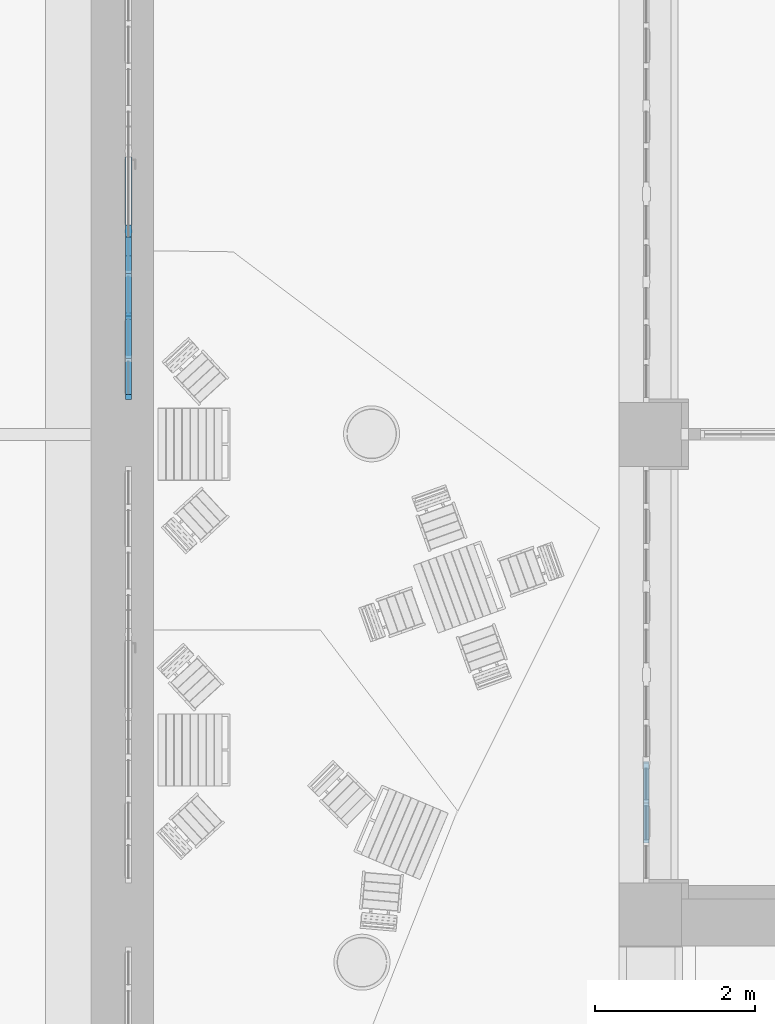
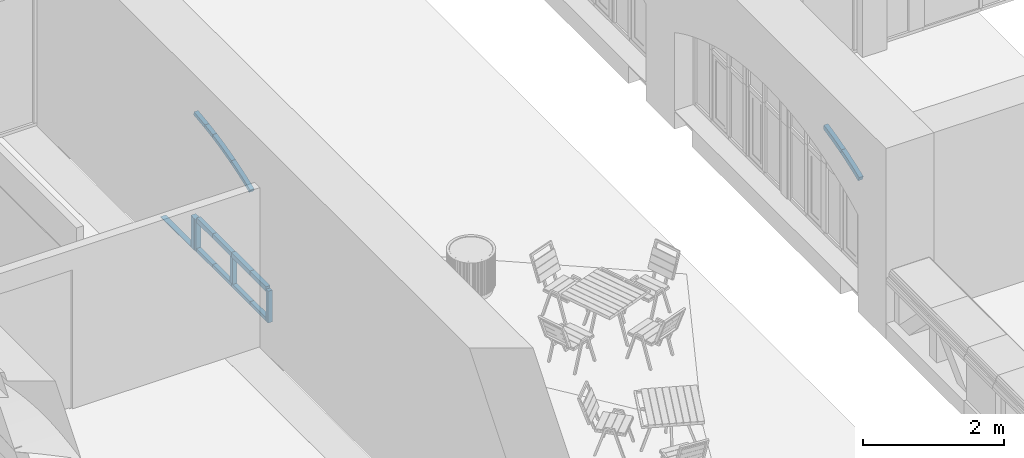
# One storey, part 21 of 88: 18 members, 2 elements without a shape of their own.
"""IFC2X3 building model written with IfcOpenShell, lengths in millimetres."""

from ifc_helpers import new_model, entity, si_unit, converted_unit, derived_unit, direction, frame, frame_2d, origin, place, context, subcontext, project, spatial, polyline, circle_curve, parameter, trimmed, segment, composite_curve, rectangle, outline, extrude, source, transform, mapped, material, type_object, type_shapes, element, aggregate, save


model = new_model("IFC2X3")

# Units and contexts
model_context = context("Model", 3, precision=0.01, world=origin(), true_north=direction((6.123031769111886e-17, 1.0)))
body_context = subcontext(model_context, "Body", "Model", "MODEL_VIEW")
ifc_project = project(units=[si_unit("LENGTHUNIT", "METRE", prefix="MILLI"), si_unit("AREAUNIT", "SQUARE_METRE"), si_unit("VOLUMEUNIT", "CUBIC_METRE"), converted_unit("PLANEANGLEUNIT", "DEGREE", entity("IfcPlaneAngleMeasure", 0.017453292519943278), si_unit("PLANEANGLEUNIT", "RADIAN"), dimensions=[0, 0, 0, 0, 0, 0, 0]), si_unit("MASSUNIT", "GRAM", prefix="KILO"), derived_unit("MASSDENSITYUNIT", [(si_unit("MASSUNIT", "GRAM", prefix="KILO"), 1), (si_unit("LENGTHUNIT", "METRE"), -3)]), derived_unit("IONCONCENTRATIONUNIT", [(si_unit("MASSUNIT", "GRAM", prefix="KILO"), 1), (si_unit("LENGTHUNIT", "METRE"), -3)]), derived_unit("MOMENTOFINERTIAUNIT", [(si_unit("LENGTHUNIT", "METRE"), 4)]), si_unit("TIMEUNIT", "SECOND"), si_unit("FREQUENCYUNIT", "HERTZ"), si_unit("THERMODYNAMICTEMPERATUREUNIT", "DEGREE_CELSIUS"), derived_unit("THERMALTRANSMITTANCEUNIT", [(si_unit("MASSUNIT", "GRAM", prefix="KILO"), 1), (si_unit("THERMODYNAMICTEMPERATUREUNIT", "KELVIN"), -1), (si_unit("TIMEUNIT", "SECOND"), -3)]), derived_unit("THERMALCONDUCTANCEUNIT", [(si_unit("MASSUNIT", "GRAM", prefix="KILO"), 1), (si_unit("THERMODYNAMICTEMPERATUREUNIT", "KELVIN"), -1), (si_unit("TIMEUNIT", "SECOND"), -3), (si_unit("LENGTHUNIT", "METRE"), 1)]), derived_unit("VOLUMETRICFLOWRATEUNIT", [(si_unit("LENGTHUNIT", "METRE", prefix="DECI"), 3), (si_unit("TIMEUNIT", "SECOND"), -1)]), derived_unit("MASSFLOWRATEUNIT", [(si_unit("MASSUNIT", "GRAM", prefix="KILO"), 1), (si_unit("TIMEUNIT", "SECOND"), -1)]), derived_unit("ROTATIONALFREQUENCYUNIT", [(si_unit("TIMEUNIT", "SECOND"), -1)]), si_unit("ELECTRICCURRENTUNIT", "AMPERE"), si_unit("ELECTRICVOLTAGEUNIT", "VOLT"), si_unit("POWERUNIT", "WATT"), si_unit("FORCEUNIT", "NEWTON", prefix="KILO"), si_unit("ILLUMINANCEUNIT", "LUX"), si_unit("LUMINOUSFLUXUNIT", "LUMEN"), si_unit("LUMINOUSINTENSITYUNIT", "CANDELA"), si_unit("ENERGYUNIT", "JOULE"), derived_unit("USERDEFINED", [(si_unit("MASSUNIT", "GRAM", prefix="KILO"), -1), (si_unit("LENGTHUNIT", "METRE"), -2), (si_unit("TIMEUNIT", "SECOND"), 3), (si_unit("LUMINOUSFLUXUNIT", "LUMEN"), 1)]), derived_unit("USERDEFINED", [(si_unit("MASSUNIT", "GRAM", prefix="KILO"), 1), (si_unit("TIMEUNIT", "SECOND"), -3), (si_unit("LENGTHUNIT", "METRE"), 3), (si_unit("ELECTRICCURRENTUNIT", "AMPERE"), -2)]), derived_unit("SOUNDPOWERUNIT", [(si_unit("MASSUNIT", "GRAM", prefix="KILO"), 1), (si_unit("TIMEUNIT", "SECOND"), -3), (si_unit("LENGTHUNIT", "METRE"), 2)]), derived_unit("SOUNDPRESSUREUNIT", [(si_unit("MASSUNIT", "GRAM", prefix="KILO"), 1), (si_unit("LENGTHUNIT", "METRE"), -1), (si_unit("TIMEUNIT", "SECOND"), -2)]), derived_unit("LINEARVELOCITYUNIT", [(si_unit("LENGTHUNIT", "METRE"), 1), (si_unit("TIMEUNIT", "SECOND"), -1)]), si_unit("PRESSUREUNIT", "PASCAL"), derived_unit("USERDEFINED", [(si_unit("MASSUNIT", "GRAM", prefix="KILO"), 1), (si_unit("LENGTHUNIT", "METRE"), -2), (si_unit("TIMEUNIT", "SECOND"), -2)]), derived_unit("LINEARFORCEUNIT", [(si_unit("MASSUNIT", "GRAM", prefix="KILO"), 1), (si_unit("TIMEUNIT", "SECOND"), -2)]), derived_unit("PLANARFORCEUNIT", [(si_unit("MASSUNIT", "GRAM", prefix="KILO"), 1), (si_unit("LENGTHUNIT", "METRE"), -1), (si_unit("TIMEUNIT", "SECOND"), -2)]), derived_unit("SPECIFICHEATCAPACITYUNIT", [(si_unit("THERMODYNAMICTEMPERATUREUNIT", "KELVIN"), -1), (si_unit("LENGTHUNIT", "METRE"), 2), (si_unit("TIMEUNIT", "SECOND"), -2)]), derived_unit("HEATFLUXDENSITYUNIT", [(si_unit("MASSUNIT", "GRAM", prefix="KILO"), 1), (si_unit("TIMEUNIT", "SECOND"), -3)]), derived_unit("HEATINGVALUEUNIT", [(si_unit("LENGTHUNIT", "METRE"), 2), (si_unit("TIMEUNIT", "SECOND"), -2)]), derived_unit("VAPORPERMEABILITYUNIT", [(si_unit("LENGTHUNIT", "METRE"), -1), (si_unit("TIMEUNIT", "SECOND"), 1)]), derived_unit("DYNAMICVISCOSITYUNIT", [(si_unit("MASSUNIT", "GRAM", prefix="KILO"), 1), (si_unit("TIMEUNIT", "SECOND"), -1), (si_unit("LENGTHUNIT", "METRE"), -1)]), derived_unit("THERMALEXPANSIONCOEFFICIENTUNIT", [(si_unit("THERMODYNAMICTEMPERATUREUNIT", "KELVIN"), -1)]), derived_unit("MODULUSOFELASTICITYUNIT", [(si_unit("MASSUNIT", "GRAM", prefix="KILO"), 1), (si_unit("LENGTHUNIT", "METRE"), -1), (si_unit("TIMEUNIT", "SECOND"), -2)]), derived_unit("ISOTHERMALMOISTURECAPACITYUNIT", [(si_unit("MASSUNIT", "GRAM", prefix="KILO"), -1), (si_unit("LENGTHUNIT", "METRE"), 3)]), derived_unit("MOISTUREDIFFUSIVITYUNIT", [(si_unit("TIMEUNIT", "SECOND"), -1), (si_unit("LENGTHUNIT", "METRE"), 2)]), derived_unit("MASSPERLENGTHUNIT", [(si_unit("MASSUNIT", "GRAM", prefix="KILO"), 1), (si_unit("LENGTHUNIT", "METRE"), -1)]), derived_unit("THERMALRESISTANCEUNIT", [(si_unit("MASSUNIT", "GRAM", prefix="KILO"), -1), (si_unit("TIMEUNIT", "SECOND"), 3), (si_unit("THERMODYNAMICTEMPERATUREUNIT", "KELVIN"), 1)]), derived_unit("ACCELERATIONUNIT", [(si_unit("LENGTHUNIT", "METRE"), 1), (si_unit("TIMEUNIT", "SECOND"), -2)]), derived_unit("ANGULARVELOCITYUNIT", [(si_unit("TIMEUNIT", "SECOND"), -1), (si_unit("PLANEANGLEUNIT", "RADIAN"), 1)]), derived_unit("LINEARSTIFFNESSUNIT", [(si_unit("MASSUNIT", "GRAM", prefix="KILO"), 1), (si_unit("TIMEUNIT", "SECOND"), -2)]), derived_unit("WARPINGCONSTANTUNIT", [(si_unit("LENGTHUNIT", "METRE"), 6)]), derived_unit("LINEARMOMENTUNIT", [(si_unit("MASSUNIT", "GRAM", prefix="KILO"), 1), (si_unit("LENGTHUNIT", "METRE"), 1), (si_unit("TIMEUNIT", "SECOND"), -2)]), derived_unit("TORQUEUNIT", [(si_unit("MASSUNIT", "GRAM", prefix="KILO"), 1), (si_unit("LENGTHUNIT", "METRE"), 2), (si_unit("TIMEUNIT", "SECOND"), -2)])], contexts=[model_context])

# Site, building, storey
site_placement = place(None, origin())
site = spatial("IfcSite", under=ifc_project, at=site_placement, Name="Default", CompositionType="ELEMENT")
building_placement = place(site_placement, origin())
building = spatial("IfcBuilding", under=site, at=building_placement, Name="Eesti Rahvusraamatukogu hoone renoveerimise projekteerimistööd", CompositionType="ELEMENT")
storey_placement = place(building_placement, origin())
storey = spatial("IfcBuildingStorey", under=building, at=storey_placement, Name="1. korrus", CompositionType="ELEMENT", Elevation=0.0)

# Curtain wall, members
curtain_wall_type_1 = type_object("IfcCurtainWallType", Name="Curtain Wall:Ak-02", PredefinedType="NOTDEFINED")
curtain_wall_1_placement = place(storey_placement, origin())
curtain_wall_1 = element("IfcCurtainWall", 1, at=curtain_wall_1_placement, inside=storey, type_object=curtain_wall_type_1, Name="Curtain Wall:Ak-02", ObjectType="Curtain Wall:Ak-02")
ifc_material_1 = material(Name="LUMION_dark steel window frames")
member_type_1 = type_object("IfcMemberType", Name="Rectangular Mullion:NEW 80x70mm", PredefinedType="MULLION", material=ifc_material_1)
shared_shape_1 = source(origin(), body_context, "Body", "SweptSolid", [
    extrude(outline(composite_curve([segment(polyline([(-51.95542765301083, -255.69780513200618), (28.044572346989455, -255.69780513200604)]), True, "CONTINUOUS"), segment(trimmed(circle_curve(frame_2d((5468.760252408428, -255.6978051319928), x_axis=(-0.9956372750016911, 0.09330818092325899)), 5440.715680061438), [parameter(3.5622212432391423e-13)], [parameter(5.353953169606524)], True, "PARAMETER"), False, "CONTINUOUS"), segment(polyline([(51.78091865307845, 251.96547789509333), (-27.870063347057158, 259.4301323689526)]), True, "CONTINUOUS"), segment(trimmed(circle_curve(frame_2d((5468.760252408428, -255.6978051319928), x_axis=(-0.9956372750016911, 0.09330818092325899)), 5520.715680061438), [parameter(3.5622212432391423e-13)], [parameter(5.353953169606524)], True, "PARAMETER"), True, "CONTINUOUS")], self_intersect=False)), frame((-51.9554276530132, -35.0, -255.6978051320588), z_axis=(0.0, 1.0, 0.0), x_axis=(-0.9956372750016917, 0.0, 0.09330818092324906)), (0.0, 0.0, 1.0), 70.00000000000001),
])
type_shapes(member_type_1, [shared_shape_1])
member_1_placement = place(curtain_wall_1_placement, frame((-36440.0, 7790.0, 3733.6333100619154), z_axis=(0.0, -0.9570819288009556, -0.28981749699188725), x_axis=(0.0, -0.28981749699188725, 0.9570819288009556)))
member_1 = element("IfcMember", 2, at=member_1_placement, type_object=member_type_1, material=ifc_material_1, Name="Rectangular Mullion:NEW 80x70mm", ObjectType="Rectangular Mullion:NEW 80x70mm", context=body_context, shape_type="MappedRepresentation", body=[
    mapped(shared_shape_1, transform((0.0, 0.0, 0.0), scale=1.0)),
])
member_type_2 = type_object("IfcMemberType", Name="Rectangular Mullion:NEW 80x70mm", PredefinedType="MULLION", material=ifc_material_1)
shared_shape_2 = source(origin(), body_context, "Body", "SweptSolid", [
    extrude(outline(composite_curve([segment(polyline([(-52.66438607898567, -263.1530214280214), (27.33561392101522, -263.1530214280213)]), True, "CONTINUOUS"), segment(trimmed(circle_curve(frame_2d((5468.05129398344, -263.15302142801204), x_axis=(-0.9953785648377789, 0.09602870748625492)), 5440.715680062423), [parameter(3.5622212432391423e-13)], [parameter(5.510531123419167)], True, "PARAMETER"), False, "CONTINUOUS"), segment(polyline([(52.47952867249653, 259.31187312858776), (-27.150756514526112, 266.99416972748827)]), True, "CONTINUOUS"), segment(trimmed(circle_curve(frame_2d((5468.05129398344, -263.15302142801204), x_axis=(-0.9953785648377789, 0.09602870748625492)), 5520.715680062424), [parameter(3.5622212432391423e-13)], [parameter(5.510531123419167)], True, "PARAMETER"), True, "CONTINUOUS")], self_intersect=False)), frame((-52.66438607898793, -35.0, -263.1530214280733), z_axis=(0.0, 1.0, 0.0), x_axis=(-0.9953785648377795, 0.0, 0.09602870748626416)), (0.0, 0.0, 1.0), 70.0),
])
type_shapes(member_type_2, [shared_shape_2])
member_2_placement = place(curtain_wall_1_placement, frame((-36440.0, 7290.0, 3555.56874428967), z_axis=(0.0, -0.9248280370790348, -0.3803854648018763), x_axis=(0.0, -0.3803854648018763, 0.9248280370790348)))
member_2 = element("IfcMember", 3, at=member_2_placement, type_object=member_type_2, material=ifc_material_1, Name="Rectangular Mullion:NEW 80x70mm", ObjectType="Rectangular Mullion:NEW 80x70mm", context=body_context, shape_type="MappedRepresentation", body=[
    mapped(shared_shape_2, transform((0.0, 0.0, 0.0), scale=1.0)),
])
aggregate(curtain_wall_1, [member_1, member_2])

curtain_wall_type_2 = type_object("IfcCurtainWallType", Name="Curtain Wall:Ak-05", PredefinedType="NOTDEFINED")
curtain_wall_2_placement = place(storey_placement, origin())
curtain_wall_2 = element("IfcCurtainWall", 4, at=curtain_wall_2_placement, inside=storey, type_object=curtain_wall_type_2, Name="Curtain Wall:Ak-05", ObjectType="Curtain Wall:Ak-05")
member_type_3 = type_object("IfcMemberType", Name="Rectangular Mullion:NEW 60x70mm", PredefinedType="MULLION", material=ifc_material_1)
shared_shape_3 = source(origin(), body_context, "Body", "SweptSolid", [
    extrude(outline(composite_curve([segment(polyline([(-44.19959331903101, -278.92780712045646), (15.800406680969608, -278.9278071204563)]), True, "CONTINUOUS"), segment(trimmed(circle_curve(frame_2d((5479.080973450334, -278.9278071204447), x_axis=(-0.9948301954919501, 0.10155236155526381)), 5463.280566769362), [parameter(3.5622212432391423e-13)], [parameter(5.828569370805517)], True, "PARAMETER"), False, "CONTINUOUS"), segment(polyline([(44.04449918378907, 275.8812362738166), (-15.645312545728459, 281.97437796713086)]), True, "CONTINUOUS"), segment(trimmed(circle_curve(frame_2d((5479.080973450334, -278.9278071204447), x_axis=(-0.9948301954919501, 0.10155236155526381)), 5523.280566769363), [parameter(3.5622212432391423e-13)], [parameter(5.828569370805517)], True, "PARAMETER"), True, "CONTINUOUS")], self_intersect=False)), frame((-44.19959331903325, -35.0, -278.9278071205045), z_axis=(0.0, 1.0, 0.0), x_axis=(-0.9948301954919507, 0.0, 0.10155236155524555)), (0.0, 0.0, 1.0), 69.99999999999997),
])
type_shapes(member_type_3, [shared_shape_3])
member_3_placement = place(curtain_wall_2_placement, frame((-42905.0, 13335.0, 1939.3047106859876), z_axis=(0.0, -0.9256428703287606, -0.37839830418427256), x_axis=(0.0, -0.37839830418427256, 0.9256428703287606)))
member_3 = element("IfcMember", 5, at=member_3_placement, type_object=member_type_3, material=ifc_material_1, Name="Rectangular Mullion:NEW 60x70mm", ObjectType="Rectangular Mullion:NEW 60x70mm", context=body_context, shape_type="MappedRepresentation", body=[
    mapped(shared_shape_3, transform((0.0, 0.0, 0.0), scale=1.0)),
])
member_type_4 = type_object("IfcMemberType", Name="Rectangular Mullion:NEW 60x70mm", PredefinedType="MULLION", material=ifc_material_1)
shared_shape_4 = source(origin(), body_context, "Body", "SweptSolid", [
    extrude(outline(composite_curve([segment(polyline([(-43.38278695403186, -270.80676601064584), (16.61721304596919, -270.80676601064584)]), True, "CONTINUOUS"), segment(trimmed(circle_curve(frame_2d((5479.897779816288, -270.80676601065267), x_axis=(-0.9951275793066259, 0.09859564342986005)), 5463.280566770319), [parameter(3.5622212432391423e-13)], [parameter(5.658307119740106)], True, "PARAMETER"), False, "CONTINUOUS"), segment(polyline([(43.23661433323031, 267.8488967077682), (-16.471040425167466, 273.7646353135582)]), True, "CONTINUOUS"), segment(trimmed(circle_curve(frame_2d((5479.897779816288, -270.80676601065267), x_axis=(-0.9951275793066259, 0.09859564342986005)), 5523.280566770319), [parameter(3.5622212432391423e-13)], [parameter(5.658307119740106)], True, "PARAMETER"), True, "CONTINUOUS")], self_intersect=False)), frame((-43.382786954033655, -35.0, -270.8067660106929), z_axis=(0.0, 1.0, 0.0), x_axis=(-0.9951275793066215, 0.0, 0.09859564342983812)), (0.0, 0.0, 1.0), 69.99999999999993),
])
type_shapes(member_type_4, [shared_shape_4])
member_4_placement = place(curtain_wall_2_placement, frame((-42905.0, 13865.0, 2125.1180799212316), z_axis=(0.0, -0.959284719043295, -0.28244083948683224), x_axis=(0.0, -0.28244083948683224, 0.959284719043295)))
member_4 = element("IfcMember", 6, at=member_4_placement, type_object=member_type_4, material=ifc_material_1, Name="Rectangular Mullion:NEW 60x70mm", ObjectType="Rectangular Mullion:NEW 60x70mm", context=body_context, shape_type="MappedRepresentation", body=[
    mapped(shared_shape_4, transform((0.0, 0.0, 0.0), scale=1.0)),
])
member_type_5 = type_object("IfcMemberType", Name="Rectangular Mullion:NEW 60x70mm", PredefinedType="MULLION", material=ifc_material_1)
shared_shape_5 = source(origin(), body_context, "Body", "SweptSolid", [
    extrude(outline(composite_curve([segment(polyline([(-32.20246871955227, -109.97239538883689), (27.79753128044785, -109.97239538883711)]), True, "CONTINUOUS"), segment(trimmed(circle_curve(frame_2d((5491.078098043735, -109.97239538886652), x_axis=(-0.9991981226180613, 0.040038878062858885)), 5463.280566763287), [parameter(3.5622212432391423e-13)], [parameter(2.2946721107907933)], True, "PARAMETER"), False, "CONTINUOUS"), segment(polyline([(32.17841239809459, 108.77122904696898), (-27.7734749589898, 111.17356173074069)]), True, "CONTINUOUS"), segment(trimmed(circle_curve(frame_2d((5491.078098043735, -109.97239538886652), x_axis=(-0.9991981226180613, 0.040038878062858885)), 5523.280566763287), [parameter(3.5622212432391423e-13)], [parameter(2.2946721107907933)], True, "PARAMETER"), True, "CONTINUOUS")], self_intersect=False)), frame((-32.202468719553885, -35.0, -109.9723953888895), z_axis=(0.0, 1.0, 0.0), x_axis=(-0.9991981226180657, 0.0, 0.04003887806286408)), (0.0, 0.0, 1.0), 69.99999999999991),
])
type_shapes(member_type_5, [shared_shape_5])
member_5_placement = place(curtain_wall_2_placement, frame((-42905.0, 14395.0, 2253.1112564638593), z_axis=(0.0, -0.9824581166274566, -0.1864833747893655), x_axis=(0.0, -0.1864833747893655, 0.9824581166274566)))
member_5 = element("IfcMember", 7, at=member_5_placement, type_object=member_type_5, material=ifc_material_1, Name="Rectangular Mullion:NEW 60x70mm", ObjectType="Rectangular Mullion:NEW 60x70mm", context=body_context, shape_type="MappedRepresentation", body=[
    mapped(shared_shape_5, transform((0.0, 0.0, 0.0), scale=1.0)),
])
member_type_6 = type_object("IfcMemberType", Name="Rectangular Mullion:NEW 150x90mm", PredefinedType="MULLION", material=ifc_material_1)
shared_shape_6 = source(origin(), body_context, "Body", "SweptSolid", [
    extrude(outline(polyline([(40.0, -20.0), (45.0, -20.0), (45.0, 20.0), (40.0, 20.0), (40.0, 75.0), (-40.0, 75.0), (-40.0, 20.0), (-45.0, 20.0), (-45.0, -20.0), (-40.0, -20.0), (-40.0, -75.0), (40.0, -75.0), (40.0, -20.0)])), frame((0.0, 0.0, -550.0), z_axis=(0.0, 0.0, 1.0), x_axis=(0.0, -1.0, 0.0)), (0.0, 0.0, 1.0), 550.0000000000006),
])
type_shapes(member_type_6, [shared_shape_6])
member_6_placement = place(curtain_wall_2_placement, frame((-42905.0, 14925.0, -50.0), z_axis=(0.0, 0.0, -1.0), x_axis=(0.0, -1.0, 0.0)))
member_6 = element("IfcMember", 8, at=member_6_placement, type_object=member_type_6, material=ifc_material_1, Name="Rectangular Mullion:NEW 150x90mm", ObjectType="Rectangular Mullion:NEW 150x90mm", context=body_context, shape_type="MappedRepresentation", body=[
    mapped(shared_shape_6, transform((0.0, 0.0, 0.0), scale=1.0)),
])
member_type_7 = type_object("IfcMemberType", Name="Rectangular Mullion:NEW 80x70mm", PredefinedType="MULLION", material=ifc_material_1)
shared_shape_7 = source(origin(), body_context, "Body", "SweptSolid", [
    extrude(rectangle(XDim=80.0, YDim=70.0, at=frame_2d((0.0, -3.552713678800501e-15), x_axis=(1.0, 0.0))), frame((0.0, 0.0, -450.0), z_axis=(0.0, 0.0, 1.0), x_axis=(-1.0, 0.0, 0.0)), (0.0, 0.0, 1.0), 449.9999999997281),
])
type_shapes(member_type_7, [shared_shape_7])
member_7_placement = place(curtain_wall_2_placement, frame((-42905.0, 12885.0, 500.0), z_axis=(0.0, -1.0, 0.0), x_axis=(0.0, 0.0, 1.0)))
member_7 = element("IfcMember", 9, at=member_7_placement, type_object=member_type_7, material=ifc_material_1, Name="Rectangular Mullion:NEW 80x70mm", ObjectType="Rectangular Mullion:NEW 80x70mm", context=body_context, shape_type="MappedRepresentation", body=[
    mapped(shared_shape_7, transform((0.0, 0.0, 0.0), scale=1.0)),
])
member_type_8 = type_object("IfcMemberType", Name="Rectangular Mullion:NEW 80x70mm", PredefinedType="MULLION", material=ifc_material_1)
shared_shape_8 = source(origin(), body_context, "Body", "SweptSolid", [
    extrude(rectangle(XDim=80.0, YDim=70.0, at=frame_2d((0.0, -3.552713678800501e-15), x_axis=(1.0, 0.0))), frame((0.0, 0.0, -530.0), z_axis=(0.0, 0.0, 1.0), x_axis=(-1.0, 0.0, 0.0)), (0.0, 0.0, 1.0), 530.0000000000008),
])
type_shapes(member_type_8, [shared_shape_8])
member_8_placement = place(curtain_wall_2_placement, frame((-42905.0, 13335.0, 500.0), z_axis=(0.0, -1.0, 0.0), x_axis=(0.0, 0.0, 1.0)))
member_8 = element("IfcMember", 10, at=member_8_placement, type_object=member_type_8, material=ifc_material_1, Name="Rectangular Mullion:NEW 80x70mm", ObjectType="Rectangular Mullion:NEW 80x70mm", context=body_context, shape_type="MappedRepresentation", body=[
    mapped(shared_shape_8, transform((0.0, 0.0, 0.0), scale=1.0)),
])
member_9_placement = place(curtain_wall_2_placement, frame((-42905.0, 13865.0, 500.0), z_axis=(0.0, -1.0, 0.0), x_axis=(0.0, 0.0, 1.0)))
member_9 = element("IfcMember", 11, at=member_9_placement, type_object=member_type_8, material=ifc_material_1, Name="Rectangular Mullion:NEW 80x70mm", ObjectType="Rectangular Mullion:NEW 80x70mm", context=body_context, shape_type="MappedRepresentation", body=[
    mapped(shared_shape_8, transform((0.0, 0.0, 0.0), scale=1.0)),
])
member_type_9 = type_object("IfcMemberType", Name="Rectangular Mullion:NEW 80x70mm", PredefinedType="MULLION", material=ifc_material_1)
shared_shape_9 = source(origin(), body_context, "Body", "SweptSolid", [
    extrude(rectangle(XDim=80.0, YDim=70.0, at=frame_2d((0.0, -3.552713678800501e-15), x_axis=(1.0, 0.0))), frame((0.0, 0.0, -455.0), z_axis=(0.0, 0.0, 1.0), x_axis=(-1.0, 0.0, 0.0)), (0.0, 0.0, 1.0), 455.0000000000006),
])
type_shapes(member_type_9, [shared_shape_9])
member_10_placement = place(curtain_wall_2_placement, frame((-42905.0, 14395.0, 500.0), z_axis=(0.0, -1.0, 0.0), x_axis=(0.0, 0.0, 1.0)))
member_10 = element("IfcMember", 12, at=member_10_placement, type_object=member_type_9, material=ifc_material_1, Name="Rectangular Mullion:NEW 80x70mm", ObjectType="Rectangular Mullion:NEW 80x70mm", context=body_context, shape_type="MappedRepresentation", body=[
    mapped(shared_shape_9, transform((0.0, 0.0, 0.0), scale=1.0)),
])
member_type_10 = type_object("IfcMemberType", Name="Rectangular Mullion:NEW 80x70mm", PredefinedType="MULLION", material=ifc_material_1)
shared_shape_10 = source(origin(), body_context, "Body", "SweptSolid", [
    extrude(rectangle(XDim=80.0, YDim=70.0, at=frame_2d((0.0, 3.552713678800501e-15), x_axis=(1.0, 0.0))), frame((0.0, 0.0, -450.0), z_axis=(0.0, 0.0, 1.0), x_axis=(-1.0, 0.0, 0.0)), (0.0, 0.0, 1.0), 450.00000000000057),
])
type_shapes(member_type_10, [shared_shape_10])
member_11_placement = place(curtain_wall_2_placement, frame((-42905.0, 13865.0, 10.0), z_axis=(0.0, 0.0, -1.0), x_axis=(0.0, -1.0, 0.0)))
member_11 = element("IfcMember", 13, at=member_11_placement, type_object=member_type_10, material=ifc_material_1, Name="Rectangular Mullion:NEW 80x70mm", ObjectType="Rectangular Mullion:NEW 80x70mm", context=body_context, shape_type="MappedRepresentation", body=[
    mapped(shared_shape_10, transform((0.0, 0.0, 0.0), scale=1.0)),
])
member_type_11 = type_object("IfcMemberType", Name="Rectangular Mullion:NEW 60x70mm", PredefinedType="MULLION", material=ifc_material_1)
shared_shape_11 = source(origin(), body_context, "Body", "SweptSolid", [
    extrude(rectangle(XDim=60.0, YDim=70.0, at=frame_2d((0.0, 3.552713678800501e-15), x_axis=(1.0, 0.0))), frame((-30.0, 0.0, -550.0), z_axis=(0.0, 0.0, 1.0), x_axis=(-1.0, 0.0, 0.0)), (0.0, 0.0, 1.0), 550.0000000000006),
])
type_shapes(member_type_11, [shared_shape_11])
member_12_placement = place(curtain_wall_2_placement, frame((-42905.0, 12825.0, -50.0), z_axis=(0.0, 0.0, -1.0), x_axis=(0.0, -1.0, 0.0)))
member_12 = element("IfcMember", 14, at=member_12_placement, type_object=member_type_11, material=ifc_material_1, Name="Rectangular Mullion:NEW 60x70mm", ObjectType="Rectangular Mullion:NEW 60x70mm", context=body_context, shape_type="MappedRepresentation", body=[
    mapped(shared_shape_11, transform((0.0, 0.0, 0.0), scale=1.0)),
])
member_type_12 = type_object("IfcMemberType", Name="Rectangular Mullion:NEW 60x70mm", PredefinedType="MULLION", material=ifc_material_1)
shared_shape_12 = source(origin(), body_context, "Body", "SweptSolid", [
    extrude(rectangle(XDim=60.0, YDim=70.0, at=frame_2d((0.0, 3.552713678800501e-15), x_axis=(1.0, 0.0))), frame((-30.0, 0.0, -450.0), z_axis=(0.0, 0.0, 1.0), x_axis=(-1.0, 0.0, 0.0)), (0.0, 0.0, 1.0), 449.9999999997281),
])
type_shapes(member_type_12, [shared_shape_12])
member_13_placement = place(curtain_wall_2_placement, frame((-42905.0, 13335.0, -50.0), z_axis=(0.0, 1.0, 0.0), x_axis=(0.0, 0.0, -1.0)))
member_13 = element("IfcMember", 15, at=member_13_placement, type_object=member_type_12, material=ifc_material_1, Name="Rectangular Mullion:NEW 60x70mm", ObjectType="Rectangular Mullion:NEW 60x70mm", context=body_context, shape_type="MappedRepresentation", body=[
    mapped(shared_shape_12, transform((0.0, 0.0, 0.0), scale=1.0)),
])
member_type_13 = type_object("IfcMemberType", Name="Rectangular Mullion:NEW 60x70mm", PredefinedType="MULLION", material=ifc_material_1)
shared_shape_13 = source(origin(), body_context, "Body", "SweptSolid", [
    extrude(rectangle(XDim=60.0, YDim=70.0, at=frame_2d((0.0, 3.552713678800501e-15), x_axis=(1.0, 0.0))), frame((-30.0, 0.0, -530.0), z_axis=(0.0, 0.0, 1.0), x_axis=(-1.0, 0.0, 0.0)), (0.0, 0.0, 1.0), 530.0000000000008),
])
type_shapes(member_type_13, [shared_shape_13])
member_14_placement = place(curtain_wall_2_placement, frame((-42905.0, 13865.0, -50.0), z_axis=(0.0, 1.0, 0.0), x_axis=(0.0, 0.0, -1.0)))
member_14 = element("IfcMember", 16, at=member_14_placement, type_object=member_type_13, material=ifc_material_1, Name="Rectangular Mullion:NEW 60x70mm", ObjectType="Rectangular Mullion:NEW 60x70mm", context=body_context, shape_type="MappedRepresentation", body=[
    mapped(shared_shape_13, transform((0.0, 0.0, 0.0), scale=1.0)),
])
member_type_14 = type_object("IfcMemberType", Name="Rectangular Mullion:NEW 60x70mm", PredefinedType="MULLION", material=ifc_material_1)
shared_shape_14 = source(origin(), body_context, "Body", "SweptSolid", [
    extrude(rectangle(XDim=60.0, YDim=70.0, at=frame_2d((0.0, 3.552713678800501e-15), x_axis=(1.0, 0.0))), frame((-30.0, 0.0, -530.0), z_axis=(0.0, 0.0, 1.0), x_axis=(-1.0, 0.0, 0.0)), (0.0, 0.0, 1.0), 530.0000000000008),
])
type_shapes(member_type_14, [shared_shape_14])
member_15_placement = place(curtain_wall_2_placement, frame((-42905.0, 14395.0, -50.0), z_axis=(0.0, 1.0, 0.0), x_axis=(0.0, 0.0, -1.0)))
member_15 = element("IfcMember", 17, at=member_15_placement, type_object=member_type_14, material=ifc_material_1, Name="Rectangular Mullion:NEW 60x70mm", ObjectType="Rectangular Mullion:NEW 60x70mm", context=body_context, shape_type="MappedRepresentation", body=[
    mapped(shared_shape_14, transform((0.0, 0.0, 0.0), scale=1.0)),
])
member_type_15 = type_object("IfcMemberType", Name="Rectangular Mullion:NEW 60x70mm", PredefinedType="MULLION", material=ifc_material_1)
shared_shape_15 = source(origin(), body_context, "Body", "SweptSolid", [
    extrude(rectangle(XDim=60.0, YDim=70.0, at=frame_2d((0.0, 3.552713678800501e-15), x_axis=(1.0, 0.0))), frame((-30.0, 0.0, -455.0), z_axis=(0.0, 0.0, 1.0), x_axis=(-1.0, 0.0, 0.0)), (0.0, 0.0, 1.0), 455.0000000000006),
])
type_shapes(member_type_15, [shared_shape_15])
member_16_placement = place(curtain_wall_2_placement, frame((-42905.0, 14850.0, -50.0), z_axis=(0.0, 1.0, 0.0), x_axis=(0.0, 0.0, -1.0)))
member_16 = element("IfcMember", 18, at=member_16_placement, type_object=member_type_15, material=ifc_material_1, Name="Rectangular Mullion:NEW 60x70mm", ObjectType="Rectangular Mullion:NEW 60x70mm", context=body_context, shape_type="MappedRepresentation", body=[
    mapped(shared_shape_15, transform((0.0, 0.0, 0.0), scale=1.0)),
])
ifc_material_2 = material(Name="Lumion_aluminium")
member_type_16 = type_object("IfcMemberType", Name="Rectangular Mullion:NEW 10x90mm", PredefinedType="MULLION", material=ifc_material_2)
shared_shape_16 = source(origin(), body_context, "Body", "SweptSolid", [
    extrude(rectangle(XDim=10.0, YDim=90.0, at=frame_2d((0.0, 3.552713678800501e-15), x_axis=(1.0, 0.0))), frame((-5.0, 0.0, -850.0), z_axis=(0.0, 0.0, 1.0), x_axis=(-1.0, 0.0, 0.0)), (0.0, 0.0, 1.0), 849.9999999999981),
])
type_shapes(member_type_16, [shared_shape_16])
member_17_placement = place(curtain_wall_2_placement, frame((-42905.0, 15850.0, -50.0), z_axis=(0.0, 1.0, 0.0), x_axis=(0.0, 0.0, -1.0)))
member_17 = element("IfcMember", 19, at=member_17_placement, type_object=member_type_16, material=ifc_material_2, Name="Rectangular Mullion:NEW 10x90mm", ObjectType="Rectangular Mullion:NEW 10x90mm", context=body_context, shape_type="MappedRepresentation", body=[
    mapped(shared_shape_16, transform((0.0, 0.0, 0.0), scale=1.0)),
])
member_type_17 = type_object("IfcMemberType", Name="Rectangular Mullion:NEW 60x70mm", PredefinedType="MULLION", material=ifc_material_1)
shared_shape_17 = source(origin(), body_context, "Body", "SweptSolid", [
    extrude(outline(composite_curve([segment(polyline([(-34.44225079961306, -156.14991642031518), (25.55774920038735, -156.14991642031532)]), True, "CONTINUOUS"), segment(trimmed(circle_curve(frame_2d((5488.838315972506, -156.14991642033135), x_axis=(-0.9983826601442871, 0.05685124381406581)), 5463.2805667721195), [parameter(3.5622212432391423e-13)], [parameter(3.2590935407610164)], True, "PARAMETER"), False, "CONTINUOUS"), segment(polyline([(34.393730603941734, 154.44437910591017), (-25.509229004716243, 157.8554537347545)]), True, "CONTINUOUS"), segment(trimmed(circle_curve(frame_2d((5488.838315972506, -156.14991642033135), x_axis=(-0.9983826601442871, 0.05685124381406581)), 5523.2805667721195), [parameter(3.5622212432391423e-13)], [parameter(3.2590935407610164)], True, "PARAMETER"), True, "CONTINUOUS")], self_intersect=False)), frame((-34.44225079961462, -35.0, -156.14991642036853), z_axis=(0.0, 1.0, 0.0), x_axis=(-0.9983826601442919, 0.0, 0.056851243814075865)), (0.0, 0.0, 1.0), 69.99999999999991),
])
type_shapes(member_type_17, [shared_shape_17])
member_18_placement = place(curtain_wall_2_placement, frame((-42905.0, 14613.092574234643, 2290.0), z_axis=(0.0, -0.9891368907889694, -0.1469973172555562), x_axis=(0.0, -0.1469973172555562, 0.9891368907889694)))
member_18 = element("IfcMember", 20, at=member_18_placement, type_object=member_type_17, material=ifc_material_1, Name="Rectangular Mullion:NEW 60x70mm", ObjectType="Rectangular Mullion:NEW 60x70mm", context=body_context, shape_type="MappedRepresentation", body=[
    mapped(shared_shape_17, transform((0.0, 0.0, 0.0), scale=1.0)),
])
aggregate(curtain_wall_2, [member_3, member_4, member_5, member_6, member_7, member_8, member_9, member_10, member_11, member_12, member_13, member_14, member_15, member_16, member_17, member_18])

save(model, "model.ifc")
